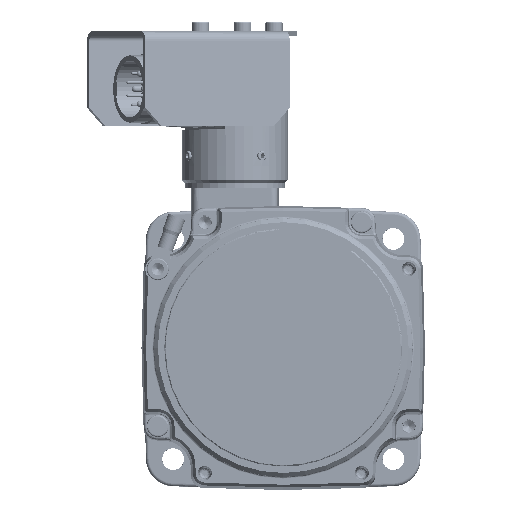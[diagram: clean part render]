
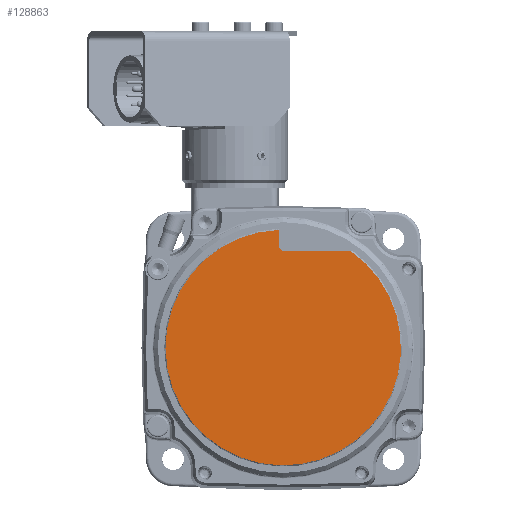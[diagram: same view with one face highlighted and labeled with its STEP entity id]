
A CAD part, top view. The second image highlights one B-rep face of the part: STEP entity #128863.
In plain terms, the highlighted planar face has unit normal (0, 0, 1).
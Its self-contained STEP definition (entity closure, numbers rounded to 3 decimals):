
#121207=CARTESIAN_POINT('',(-1.5,37.77,60.3));
#121209=CARTESIAN_POINT('',(0.,0.,60.3));
#121210=DIRECTION('',(0.,0.,-1.));
#121211=DIRECTION('',(0.572,0.82,0.));
#121212=AXIS2_PLACEMENT_3D('',#121209,#121210,#121211);
#121235=CARTESIAN_POINT('',(0.5,33.,60.3));
#121236=DIRECTION('',(0.,0.,-1.));
#121237=DIRECTION('',(0.,-1.,0.));
#121238=AXIS2_PLACEMENT_3D('',#121235,#121236,#121237);
#121257=DIRECTION('',(0.,-1.,0.));
#121258=VECTOR('',#121257,4.77);
#121259=CARTESIAN_POINT('',(-1.5,37.77,60.3));
#121260=LINE('',#121259,#121258);
#121261=DIRECTION('',(1.,0.,0.));
#121262=VECTOR('',#121261,21.13);
#121263=CARTESIAN_POINT('',(0.5,31.,60.3));
#121264=LINE('',#121263,#121262);
#121730=CARTESIAN_POINT('',(0.5,31.,60.3));
#121732=VERTEX_POINT('',#121730);
#121734=CARTESIAN_POINT('',(-1.5,33.,60.3));
#121736=VERTEX_POINT('',#121734);
#121750=VERTEX_POINT('',#121207);
#121751=CARTESIAN_POINT('',(21.63,31.,60.3));
#121752=VERTEX_POINT('',#121751);
#128852=CARTESIAN_POINT('',(0.,0.,60.3));
#128853=DIRECTION('',(0.,0.,1.));
#128854=DIRECTION('',(1.,0.,0.));
#128855=AXIS2_PLACEMENT_3D('',#128852,#128853,#128854);
#128856=PLANE('',#128855);
#128857=ORIENTED_EDGE('',*,*,#128800,.T.);
#128858=ORIENTED_EDGE('',*,*,#128818,.T.);
#128859=ORIENTED_EDGE('',*,*,#128830,.F.);
#128860=ORIENTED_EDGE('',*,*,#128843,.T.);
#128861=EDGE_LOOP('',(#128857,#128858,#128859,#128860));
#128862=FACE_OUTER_BOUND('',#128861,.F.);
#128863=ADVANCED_FACE('',(#128862),#128856,.T.);
#121213=CIRCLE('',#121212,37.8);
#121239=CIRCLE('',#121238,2.);
#128800=EDGE_CURVE('',#121752,#121750,#121213,.T.);
#128818=EDGE_CURVE('',#121750,#121736,#121260,.T.);
#128830=EDGE_CURVE('',#121732,#121736,#121239,.T.);
#128843=EDGE_CURVE('',#121732,#121752,#121264,.T.);
